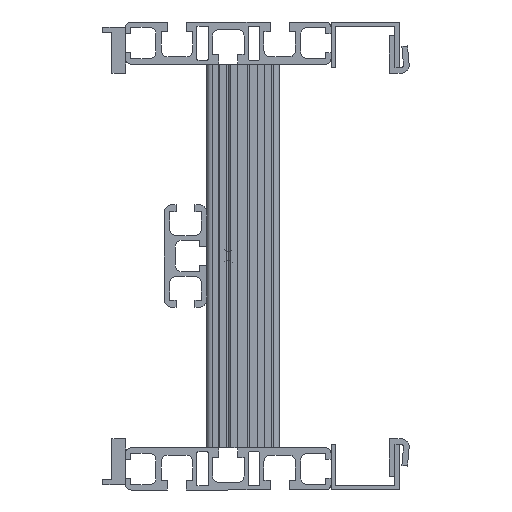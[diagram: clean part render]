
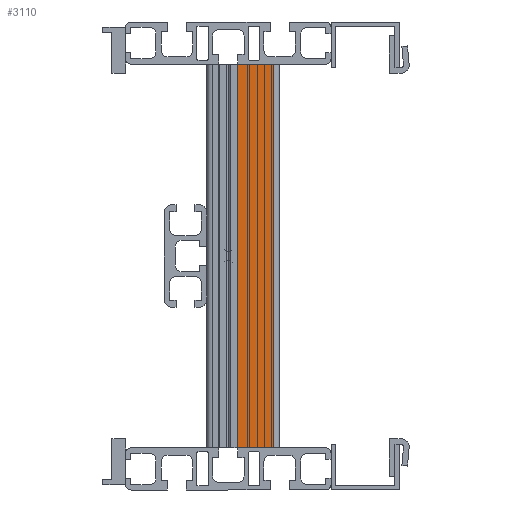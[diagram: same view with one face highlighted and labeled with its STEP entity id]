
A CAD part, left-side view. The second image highlights one B-rep face of the part: STEP entity #3110.
In plain terms, the highlighted planar face has unit normal (-1, 0, 0).
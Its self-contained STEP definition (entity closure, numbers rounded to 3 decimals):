
#2096 = FACE_OUTER_BOUND ( 'NONE', #12666, .T. ) ;
#3110 = ADVANCED_FACE ( 'NONE', ( #2096 ), #21503, .F. ) ;
#5374 = LINE ( 'NONE', #7498, #5376 ) ;
#5376 = VECTOR ( 'NONE', #7499, 1000. ) ;
#5377 = LINE ( 'NONE', #7503, #5384 ) ;
#5384 = VECTOR ( 'NONE', #7514, 1000. ) ;
#5387 = LINE ( 'NONE', #7530, #5398 ) ;
#5398 = VECTOR ( 'NONE', #7520, 1000. ) ;
#5519 = LINE ( 'NONE', #7686, #5521 ) ;
#5521 = VECTOR ( 'NONE', #7684, 1000. ) ;
#6482 = CARTESIAN_POINT ( 'NONE',  ( -500., -49.15, -84. ) ) ;
#6540 = CARTESIAN_POINT ( 'NONE',  ( -500., -65., 84. ) ) ;
#6741 = CARTESIAN_POINT ( 'NONE',  ( -500., -49.15, 84. ) ) ;
#6792 = CARTESIAN_POINT ( 'NONE',  ( -500., -65., -84. ) ) ;
#7498 = CARTESIAN_POINT ( 'NONE',  ( -500., -65., -84. ) ) ;
#7499 = DIRECTION ( 'NONE',  ( 0., 1., 0. ) ) ;
#7503 = CARTESIAN_POINT ( 'NONE',  ( -500., -49.15, -84. ) ) ;
#7514 = DIRECTION ( 'NONE',  ( 0., 0., 1. ) ) ;
#7520 = DIRECTION ( 'NONE',  ( 0., 0., 1. ) ) ;
#7530 = CARTESIAN_POINT ( 'NONE',  ( -500., -65., -84. ) ) ;
#7684 = DIRECTION ( 'NONE',  ( 0., 1., 0. ) ) ;
#7686 = CARTESIAN_POINT ( 'NONE',  ( -500., -65., 84. ) ) ;
#12569 = VERTEX_POINT ( 'NONE', #6482 ) ;
#12666 = EDGE_LOOP ( 'NONE', ( #16376, #16372, #16368, #16364 ) ) ;
#12714 = VERTEX_POINT ( 'NONE', #6540 ) ;
#13151 = VERTEX_POINT ( 'NONE', #6741 ) ;
#13313 = VERTEX_POINT ( 'NONE', #6792 ) ;
#16364 = ORIENTED_EDGE ( 'NONE', *, *, #19013, .T. ) ;
#16368 = ORIENTED_EDGE ( 'NONE', *, *, #19001, .F. ) ;
#16372 = ORIENTED_EDGE ( 'NONE', *, *, #19005, .F. ) ;
#16376 = ORIENTED_EDGE ( 'NONE', *, *, #19085, .T. ) ;
#19001 = EDGE_CURVE ( 'NONE', #13313, #12569, #5374, .T. ) ;
#19005 = EDGE_CURVE ( 'NONE', #12569, #13151, #5377, .T. ) ;
#19013 = EDGE_CURVE ( 'NONE', #13313, #12714, #5387, .T. ) ;
#19085 = EDGE_CURVE ( 'NONE', #12714, #13151, #5519, .T. ) ;
#20729 = AXIS2_PLACEMENT_3D ( 'NONE', #21095, #21116, #21117 ) ;
#21095 = CARTESIAN_POINT ( 'NONE',  ( -500., -65., -84. ) ) ;
#21116 = DIRECTION ( 'NONE',  ( 1., 0., 0. ) ) ;
#21117 = DIRECTION ( 'NONE',  ( 0., 0., -1. ) ) ;
#21503 = PLANE ( 'NONE',  #20729 ) ;
